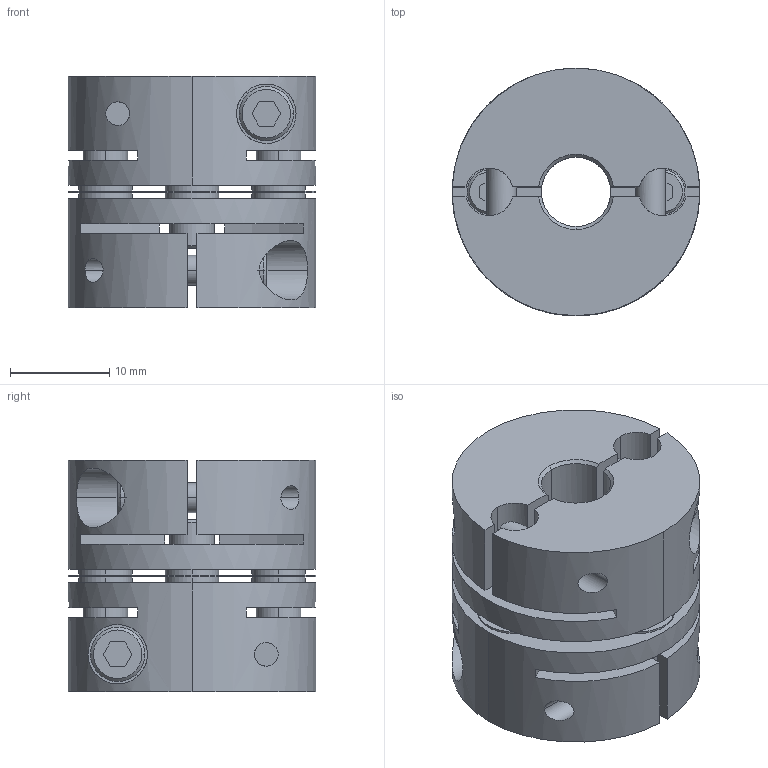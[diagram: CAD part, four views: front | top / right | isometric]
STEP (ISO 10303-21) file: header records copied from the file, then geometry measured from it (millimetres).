
FILE_DESCRIPTION((''),'2;1');
FILE_NAME('LAS-25C-7×8.stp','2011-08-10T10:25:18',(''),(''),'AutoCAD STEP 2000i','AutoCAD 2000i',', , ');
FILE_SCHEMA(('CONFIG_CONTROL_DESIGN'));
Length unit declared in the file: millimetre
Products named in the file (5): LAS-25C-6×6; 忣兜1; LA-2502-D06-1; LA-2502-D06; LAS25-ITA
Assembly tree (4 placements, depth 2):
  LAS-25C-6×6
    忣兜1
    LA-2502-D06-1
    LA-2502-D06
    LAS25-ITA
Bounding box: 25 x 25 x 23.4 mm (x, y, z)
Volume: 8549.8 mm3; surface area: 6881.5 mm2
Topology: 1 solids, 1 shells, 244 faces, 648 edges, 424 vertices
Faces by surface type: plane 112, cylinder 104, cone 28
Entity records: 8499 total; most frequent: CARTESIAN_POINT 2121, DIRECTION 1326, ORIENTED_EDGE 1296, EDGE_CURVE 648, AXIS2_PLACEMENT_3D 485, VERTEX_POINT 424, VECTOR 356, LINE 356
